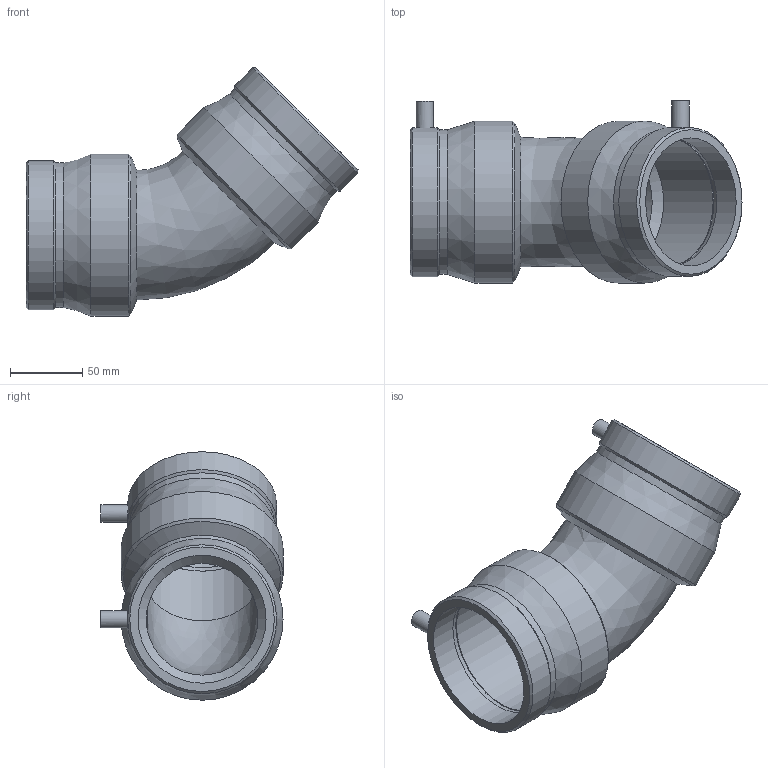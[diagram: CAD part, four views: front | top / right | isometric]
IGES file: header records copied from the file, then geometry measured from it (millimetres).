
Global section: file name: 5906B003030.ipt; native system: Autodesk Inventor 2019; preprocessor: unknown; author: KIM; date: 20210830.101009; units: inch
Bounding box: 230.12 x 126.24 x 172.2 mm (x, y, z)
Volume: 554443.4 mm3; surface area: 144103.7 mm2
Topology: 1 solids, 1 shells, 42 faces, 98 edges, 64 vertices
Faces by surface type: revolution 12, cone 10, plane 10, cylinder 10
Full cylindrical faces by diameter (mm): 4.8 x2, 12 x2, 100.188 x2, 103.287 x2, 112.268 x2
